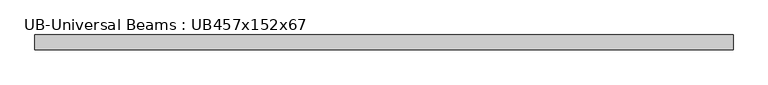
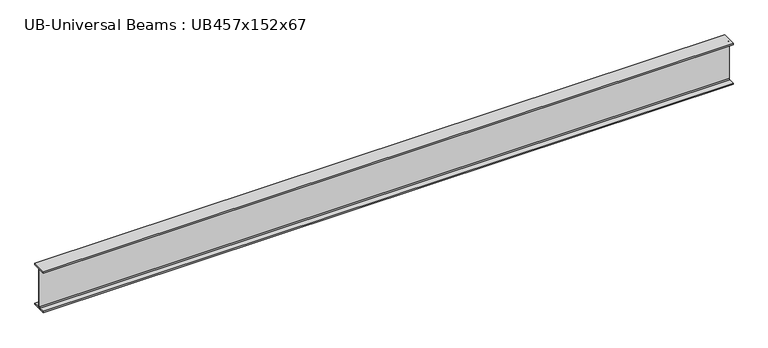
"""IFC4 building model written with IfcOpenShell, lengths in millimetres: beam geometry, UB-Universal Beams : UB457x152x67."""

import ifcopenshell
import ifcopenshell.guid

model = None  # the IFC model being written
_history = None  # IfcOwnerHistory: only IFC2X3 demands one
_inside = {}  # id of a spatial element -> (the spatial element, [elements in it])
_under = {}  # id of a project, library or spatial element -> (it, [spatial elements below it])
_declared = {}  # id of a project -> (the project, [libraries it declares])
_typed = {}  # id of a type object -> (the type object, [elements of that type])
_made_of = {}  # id of a material, layer set ... -> (it, [elements and type objects made of it])


def new_model(schema):
    """Start an empty IFC model of exactly this schema.

    Asked for "IFC4X3", IfcOpenShell would pick the latest addendum, in which some entities
    have other attributes; the version numbers below select the first issue.
    IFC2X3 requires an IfcOwnerHistory on every rooted entity: one is made here for all.
    """
    global model, _history
    if schema == "IFC4X3":
        model = ifcopenshell.file(schema_version=(4, 3, 0, 0))
    else:
        model = ifcopenshell.file(schema=schema)
    _inside.clear()
    _under.clear()
    _declared.clear()
    _typed.clear()
    _made_of.clear()
    _history = None
    if model.schema == "IFC2X3":
        org = make("IfcOrganization", Name="unknown")
        user = make(
            "IfcPersonAndOrganization",
            ThePerson=make("IfcPerson", FamilyName="unknown"),
            TheOrganization=org,
        )
        app = make(
            "IfcApplication",
            ApplicationDeveloper=org,
            Version="unknown",
            ApplicationFullName="unknown",
            ApplicationIdentifier="unknown",
        )
        _history = make(
            "IfcOwnerHistory",
            OwningUser=user,
            OwningApplication=app,
            ChangeAction="ADDED",
            CreationDate=0,
        )
    return model


def make(cls, **values):
    """One entity of the class cls with the attributes given. An attribute that is None is left unset."""
    return model.create_entity(
        cls, **{name: value for name, value in values.items() if value is not None}
    )


def rooted(cls, **values):
    """An entity with a GlobalId (a new one), such as an element, a storey or a relation."""
    return make(cls, GlobalId=ifcopenshell.guid.new(), OwnerHistory=_history, **values)


def si_unit(unit_type, name, prefix=None):
    """IfcSIUnit, for example si_unit("LENGTHUNIT", "METRE", prefix="MILLI")."""
    return make("IfcSIUnit", UnitType=unit_type, Prefix=prefix, Name=name)


def assignment(units):
    """IfcUnitAssignment: the units of a project."""
    return None if units is None else make("IfcUnitAssignment", Units=units)


def point(xyz):
    """IfcCartesianPoint."""
    return None if xyz is None else make("IfcCartesianPoint", Coordinates=xyz)


def direction(xyz):
    """IfcDirection."""
    return None if xyz is None else make("IfcDirection", DirectionRatios=xyz)


def frame(location, z_axis=None, x_axis=None):
    """IfcAxis2Placement3D, a coordinate frame: its origin and axes. An axis left out is left unset."""
    return make(
        "IfcAxis2Placement3D",
        Location=point(location),
        Axis=direction(z_axis),
        RefDirection=direction(x_axis),
    )


def frame_2d(location, x_axis=None):
    """IfcAxis2Placement2D, a coordinate frame in the plane: its origin and x axis."""
    return make(
        "IfcAxis2Placement2D", Location=point(location), RefDirection=direction(x_axis)
    )


def origin():
    """The frame at (0, 0, 0) with its axes left unset."""
    return frame((0.0, 0.0, 0.0))


def place(relative_to, where):
    """IfcLocalPlacement: puts the frame where relative to a parent placement (None: the world)."""
    return make(
        "IfcLocalPlacement", PlacementRelTo=relative_to, RelativePlacement=where
    )


def context(
    kind, dimensions, precision=None, world=None, true_north=None, identifier=None
):
    """IfcGeometricRepresentationContext, for example the 3D "Model" context."""
    return make(
        "IfcGeometricRepresentationContext",
        ContextIdentifier=identifier,
        ContextType=kind,
        CoordinateSpaceDimension=dimensions,
        Precision=precision,
        WorldCoordinateSystem=world,
        TrueNorth=true_north,
    )


def project(units=None, contexts=None):
    """IfcProject with its units and contexts."""
    return rooted(
        "IfcProject",
        Name="project",
        RepresentationContexts=contexts,
        UnitsInContext=assignment(units),
    )


def spatial(cls, under=None, at=None, **own):
    """A site, building, storey or space (cls), placed at a placement, below another one or the project."""
    s = rooted(cls, ObjectPlacement=at, **own)
    if under is not None:
        _under.setdefault(under.id(), (under, []))[1].append(s)
    return s


def polyline(points):
    """IfcPolyline through the points."""
    return make("IfcPolyline", Points=[point(p) for p in points])


def circle_curve(where, radius):
    """IfcCircle in the frame where."""
    return make("IfcCircle", Position=where, Radius=radius)


def trimmed(basis, trim1, trim2, sense, master):
    """IfcTrimmedCurve: the piece of a basis curve between two trims."""
    return make(
        "IfcTrimmedCurve",
        BasisCurve=basis,
        Trim1=trim1,
        Trim2=trim2,
        SenseAgreement=sense,
        MasterRepresentation=master,
    )


def segment(curve, same_sense, transition):
    """IfcCompositeCurveSegment."""
    return make(
        "IfcCompositeCurveSegment",
        Transition=transition,
        SameSense=same_sense,
        ParentCurve=curve,
    )


def composite_curve(segments, self_intersect=None):
    """IfcCompositeCurve: segments joined end to end."""
    return make("IfcCompositeCurve", Segments=segments, SelfIntersect=self_intersect)


def outline(outer, holes=None, kind="AREA"):
    """IfcArbitraryClosedProfileDef: a profile drawn as a closed curve; with holes, ...WithVoids."""
    if holes is None:
        return make("IfcArbitraryClosedProfileDef", ProfileType=kind, OuterCurve=outer)
    return make(
        "IfcArbitraryProfileDefWithVoids",
        ProfileType=kind,
        OuterCurve=outer,
        InnerCurves=holes,
    )


def extrude(swept, where, along, depth):
    """IfcExtrudedAreaSolid: the profile swept, set in the frame where, extruded along a direction by depth."""
    return make(
        "IfcExtrudedAreaSolid",
        SweptArea=swept,
        Position=where,
        ExtrudedDirection=direction(along),
        Depth=depth,
    )


def shape(context_of_items, identifier, shape_type, items):
    """IfcShapeRepresentation: the items that make up one representation, for example the "Body"."""
    return make(
        "IfcShapeRepresentation",
        ContextOfItems=context_of_items,
        RepresentationIdentifier=identifier,
        RepresentationType=shape_type,
        Items=items,
    )


def source(mapping_origin, context_of_items, identifier, shape_type, items):
    """IfcRepresentationMap: a shape defined once, which mapped items show again and again."""
    return make(
        "IfcRepresentationMap",
        MappingOrigin=mapping_origin,
        MappedRepresentation=shape(context_of_items, identifier, shape_type, items),
    )


def transform(
    local_origin,
    x_axis=None,
    y_axis=None,
    z_axis=None,
    scale=None,
    scale2=None,
    scale3=None,
    uniform=True,
):
    """IfcCartesianTransformationOperator3D, or its non-uniform kind. x_axis, y_axis, z_axis: its Axis1, 2, 3."""
    if uniform:
        return make(
            "IfcCartesianTransformationOperator3D",
            Axis1=direction(x_axis),
            Axis2=direction(y_axis),
            LocalOrigin=point(local_origin),
            Scale=scale,
            Axis3=direction(z_axis),
        )
    return make(
        "IfcCartesianTransformationOperator3DnonUniform",
        Axis1=direction(x_axis),
        Axis2=direction(y_axis),
        LocalOrigin=point(local_origin),
        Scale=scale,
        Axis3=direction(z_axis),
        Scale2=scale2,
        Scale3=scale3,
    )


def mapped(mapping_source, mapping_target):
    """IfcMappedItem: shows the shape of a source again, moved by a transform."""
    return make(
        "IfcMappedItem", MappingSource=mapping_source, MappingTarget=mapping_target
    )


def made_of(thing, what):
    """Note that an element or type object is made of a material, layer set ...; save() writes the relation."""
    if what is not None:
        _made_of.setdefault(what.id(), (what, []))[1].append(thing)
    return thing


def element(
    cls,
    number,
    at=None,
    inside=None,
    cuts=None,
    type_object=None,
    material=None,
    context=None,
    identifier="Body",
    shape_type=None,
    held_by="IfcProductDefinitionShape",
    body=None,
    shapes=None,
    **own,
):
    """One element of the class cls, such as IfcWall. Its Tag is "e" and its number.

    at: its placement. inside: the storey or other place that contains it. cuts: it is an
    opening in that element (IfcRelVoidsElement). A single representation is given by context,
    identifier, shape_type and body (its items); several are given by shapes. held_by: the class
    of the entity that holds the representations. save() writes the other relations.
    """
    e = rooted(cls, Tag="e%d" % number, ObjectPlacement=at, **own)
    if body is not None:
        shapes = [shape(context, identifier, shape_type, body)]
    if shapes is not None:
        e.Representation = make(held_by, Representations=shapes)
    if inside is not None:
        _inside.setdefault(inside.id(), (inside, []))[1].append(e)
    if cuts is not None:
        rooted(
            "IfcRelVoidsElement", RelatingBuildingElement=cuts, RelatedOpeningElement=e
        )
    if type_object is not None:
        _typed.setdefault(type_object.id(), (type_object, []))[1].append(e)
    return made_of(e, material)


def aggregate(whole, parts):
    """IfcRelAggregates: a whole, such as a stair, and the parts it consists of."""
    return rooted("IfcRelAggregates", RelatingObject=whole, RelatedObjects=parts)


def save(model, path):
    """Write the relations noted so far, then the file.

    IfcRelAggregates (storeys below a building ...), IfcRelContainedInSpatialStructure (elements
    in a storey), IfcRelDefinesByType, IfcRelAssociatesMaterial and IfcRelDeclares: one each for
    every whole, place, type object, material and project.
    """
    for whole, parts in _under.values():
        aggregate(whole, parts)
    for where, things in _inside.values():
        rooted(
            "IfcRelContainedInSpatialStructure",
            RelatedElements=things,
            RelatingStructure=where,
        )
    for kind, things in _typed.values():
        rooted("IfcRelDefinesByType", RelatedObjects=things, RelatingType=kind)
    for what, things in _made_of.values():
        rooted("IfcRelAssociatesMaterial", RelatedObjects=things, RelatingMaterial=what)
    for by, libraries in _declared.values():
        rooted("IfcRelDeclares", RelatingContext=by, RelatedDefinitions=libraries)
    model.write(path)


def ub_universal_beams_ub457x152x67_3b3b240f(model_context):
    return source(origin(), model_context, "Body", "SweptSolid", [
        extrude(outline(composite_curve([segment(polyline([(76.9, -214.0), (76.9, -229.0), (-76.9, -229.0), (-76.9, -214.0), (-14.7, -214.0)]), True, "CONTINUOUS"), segment(trimmed(circle_curve(frame_2d((-14.7, -203.8)), 10.2), [point((-14.7, -214.0))], [point((-4.5, -203.8))], True, "CARTESIAN"), True, "CONTINUOUS"), segment(polyline([(-4.5, -203.8), (-4.5, 203.8)]), True, "CONTINUOUS"), segment(trimmed(circle_curve(frame_2d((-14.7, 203.8)), 10.2), [point((-4.5, 203.8))], [point((-14.7, 214.0))], True, "CARTESIAN"), True, "CONTINUOUS"), segment(polyline([(-14.7, 214.0), (-76.9, 214.0), (-76.9, 229.0), (76.9, 229.0), (76.9, 214.0), (14.7, 214.0)]), True, "CONTINUOUS"), segment(trimmed(circle_curve(frame_2d((14.7, 203.8)), 10.2), [point((14.7, 214.0))], [point((4.5, 203.8))], True, "CARTESIAN"), True, "CONTINUOUS"), segment(polyline([(4.5, 203.8), (4.5, -203.8)]), True, "CONTINUOUS"), segment(trimmed(circle_curve(frame_2d((14.7, -203.8)), 10.2), [point((4.5, -203.8))], [point((14.7, -214.0))], True, "CARTESIAN"), True, "CONTINUOUS"), segment(polyline([(14.7, -214.0), (76.9, -214.0)]), True, "CONTINUOUS")], self_intersect=False)), frame((-3660.4, 0.0, 0.0), z_axis=(1.0, 0.0, 0.0), x_axis=(0.0, 1.0, 0.0)), (0.0, 0.0, 1.0), 7267.0),
    ])


if __name__ == "__main__":
    model = new_model("IFC4")
    model_context = context("Model", 3, world=origin())
    ifc_project = project(units=[si_unit("LENGTHUNIT", "METRE", prefix="MILLI")], contexts=[model_context])
    site = spatial("IfcSite", under=ifc_project)
    building = spatial("IfcBuilding", under=site)
    placement = place(None, origin())
    ub_universal_beams_ub457x152x67_shape = ub_universal_beams_ub457x152x67_3b3b240f(model_context)
    element("IfcBeam", 1, ObjectType="UB-Universal Beams : UB457x152x67", at=placement, inside=building, context=model_context, shape_type="MappedRepresentation", body=[
        mapped(ub_universal_beams_ub457x152x67_shape, transform((0.0, 0.0, 0.0), x_axis=(1.0, 0.0, 0.0), y_axis=(0.0, 1.0, 0.0), z_axis=(0.0, 0.0, 1.0))),
    ])
    save(model, "model.ifc")
